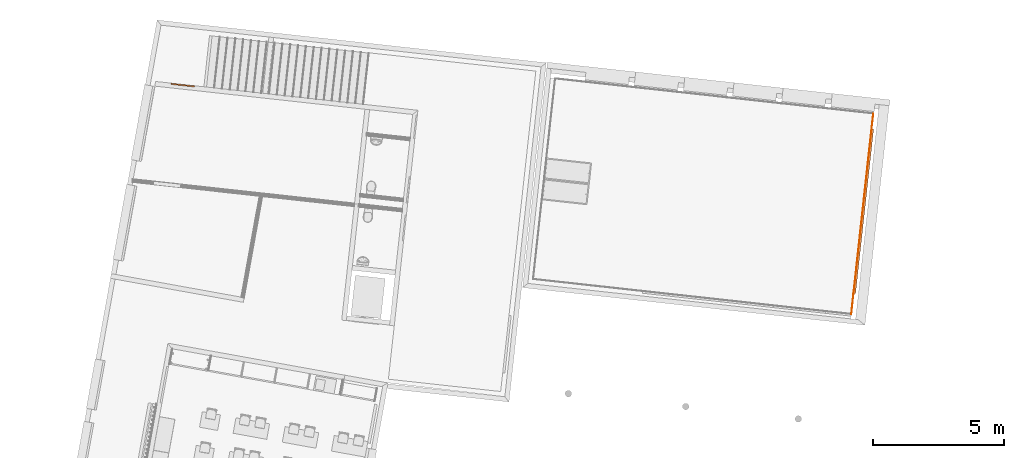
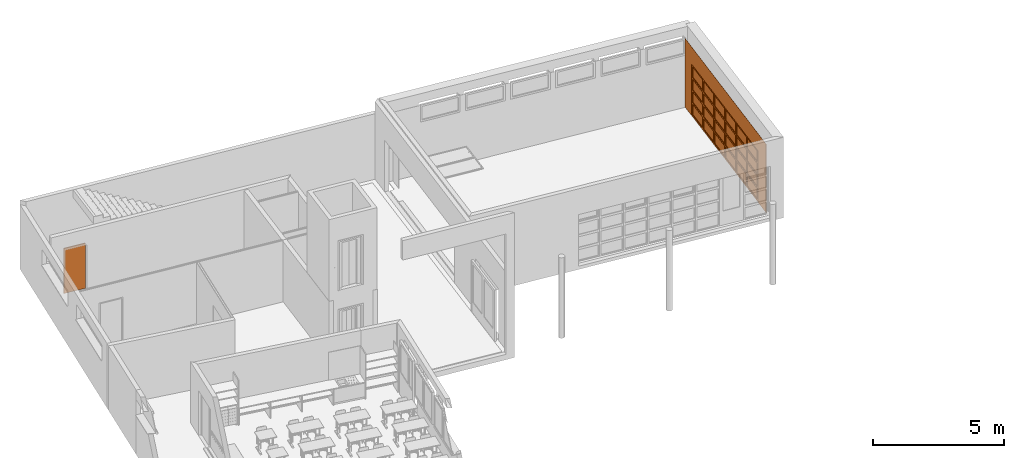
# One storey, part 72 of 79: 3 proxies.
"""IFC2X3 building model written with IfcOpenShell, lengths in metres."""

from ifc_helpers import new_model, entity, si_unit, converted_unit, derived_unit, money_unit, direction, frame, origin_with_axes, place, context, subcontext, project, spatial, polyline, outline, extrude, boolean, open_shell, faceted_brep, surface_model, material, type_object, element, save


model = new_model("IFC2X3")

# Units and contexts
model_context = context("Model", 3, precision=1e-05, world=origin_with_axes(), true_north=direction((0.0, 1.0)))
body_context = subcontext(model_context, "Body", "Model", "MODEL_VIEW")
ifc_project = project(units=[si_unit("LENGTHUNIT", "METRE"), si_unit("AREAUNIT", "SQUARE_METRE"), si_unit("VOLUMEUNIT", "CUBIC_METRE"), converted_unit("PLANEANGLEUNIT", "DEGREE", entity("IfcPlaneAngleMeasure", 0.0174532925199), si_unit("PLANEANGLEUNIT", "RADIAN"), dimensions=[0, 0, 0, 0, 0, 0, 0]), money_unit("CHF"), converted_unit("TIMEUNIT", "Year", entity("IfcTimeMeasure", 31556926.0), si_unit("TIMEUNIT", "SECOND"), dimensions=[0, 0, 1, 0, 0, 0, 0]), si_unit("MASSUNIT", "GRAM", prefix="KILO"), si_unit("THERMODYNAMICTEMPERATUREUNIT", "DEGREE_CELSIUS"), si_unit("LUMINOUSINTENSITYUNIT", "LUMEN"), si_unit("ENERGYUNIT", "JOULE", prefix="MEGA"), derived_unit("THERMALCONDUCTANCEUNIT", [(si_unit("POWERUNIT", "WATT"), 1), (si_unit("LENGTHUNIT", "METRE"), -1), (si_unit("THERMODYNAMICTEMPERATUREUNIT", "KELVIN"), -1)]), derived_unit("SPECIFICHEATCAPACITYUNIT", [(si_unit("ENERGYUNIT", "JOULE"), 1), (si_unit("MASSUNIT", "GRAM", prefix="KILO"), -1), (si_unit("THERMODYNAMICTEMPERATUREUNIT", "KELVIN"), -1)]), derived_unit("MASSDENSITYUNIT", [(si_unit("MASSUNIT", "GRAM", prefix="KILO"), 1), (si_unit("VOLUMEUNIT", "CUBIC_METRE"), -1)])], contexts=[model_context])

# Site, building, storey
site_placement = place(None, frame((0.0, 0.0, 0.0), z_axis=(0.0, 0.0, 1.0), x_axis=(-0.177771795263, -0.984071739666, 0.0)))
site = spatial("IfcSite", under=ifc_project, at=site_placement, Name="Site", CompositionType="ELEMENT")
building_placement = place(site_placement, origin_with_axes())
building = spatial("IfcBuilding", under=site, at=building_placement, Name="Bâtiment", CompositionType="ELEMENT")
storey_placement = place(building_placement, origin_with_axes())
storey = spatial("IfcBuildingStorey", under=building, at=storey_placement, Name="RDC", CompositionType="ELEMENT", Elevation=0.0)

# Proxies
ifc_material_1 = material(Name="Matériau de construction IFC")
building_element_proxy_type_1 = type_object("IfcBuildingElementProxyType", Name="Porte 21", PredefinedType="NOTDEFINED")
proxy_1_placement = place(storey_placement, frame((100.170296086, -158.271447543, 0.0), z_axis=(0.0, 0.0, 1.0), x_axis=(-0.0692627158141, 0.997598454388, 0.0)))
element("IfcBuildingElementProxy", 1, at=proxy_1_placement, inside=storey, type_object=building_element_proxy_type_1, material=ifc_material_1, Name="29", context=body_context, shape_type="Brep", body=[
    faceted_brep([(0.85, -0.04, 0.0), (0.85, -0.05, 0.0), (0.85, -0.05, 2.05), (0.85, -0.04, 2.05), (0.862, -0.04, 0.0), (0.862, 0.0, 0.0), (0.9, 0.0, 0.0), (0.9, -0.05, 0.0), (0.9, -0.05, 2.05), (0.862, -0.04, 2.05), (0.9, 0.0, 2.05), (0.862, 0.0, 2.05)], [[[0, 1, 2, 3]], [[4, 5, 6, 7, 1, 0]], [[1, 7, 8, 2]], [[9, 3, 2, 8, 10, 11]], [[9, 4, 0, 3]], [[11, 5, 4, 9]], [[11, 10, 6, 5]], [[6, 10, 8, 7]]]),
    faceted_brep([(0.038, -0.04, 2.05), (0.038, 0.0, 2.05), (0.0, 0.0, 2.05), (0.0, -0.05, 2.05), (0.05, -0.05, 2.05), (0.05, -0.04, 2.05), (0.038, -0.04, 0.0), (0.038, 0.0, 0.0), (0.0, 0.0, 0.0), (0.0, -0.05, 0.0), (0.05, -0.05, 0.0), (0.05, -0.04, 0.0)], [[[0, 1, 2, 3, 4, 5]], [[0, 6, 7, 1]], [[7, 8, 2, 1]], [[2, 8, 9, 3]], [[3, 9, 10, 4]], [[5, 4, 10, 11]], [[5, 11, 6, 0]], [[6, 11, 10, 9, 8, 7]]]),
    faceted_brep([(0.862, 0.0, 2.062), (0.038, 0.0, 2.062), (0.038, 0.0, 2.05), (0.0, 0.0, 2.05), (0.0, 0.0, 2.1), (0.9, 0.0, 2.1), (0.9, 0.0, 2.05), (0.862, 0.0, 2.05), (0.862, -0.04, 2.062), (0.038, -0.04, 2.062), (0.038, -0.04, 2.05), (0.05, -0.04, 2.05), (0.05, -0.05, 2.05), (0.0, -0.05, 2.05), (0.0, -0.05, 2.1), (0.9, -0.05, 2.1), (0.9, -0.05, 2.05), (0.862, -0.04, 2.05), (0.85, -0.05, 2.05), (0.85, -0.04, 2.05)], [[[0, 1, 2, 3, 4, 5, 6, 7]], [[0, 8, 9, 1]], [[1, 9, 10, 2]], [[10, 11, 12, 13, 3, 2]], [[4, 3, 13, 14]], [[5, 4, 14, 15]], [[6, 5, 15, 16]], [[17, 7, 6, 16, 18, 19]], [[7, 17, 8, 0]], [[10, 9, 8, 17, 19, 11]], [[19, 18, 12, 11]], [[12, 18, 16, 15, 14, 13]]]),
    faceted_brep([(0.038, -0.01, 0.0), (0.862, -0.00999999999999, 0.0), (0.862, -0.04, 0.0), (0.038, -0.04, 0.0), (0.038, -0.01, 2.062), (0.862, -0.00999999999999, 2.062), (0.862, -0.04, 2.062), (0.038, -0.04, 2.062)], [[[0, 1, 2, 3]], [[0, 4, 5, 1]], [[1, 5, 6, 2]], [[3, 2, 6, 7]], [[4, 0, 3, 7]], [[5, 4, 7, 6]]]),
])
building_element_proxy_type_2 = type_object("IfcBuildingElementProxyType", Name="Fenêtre horizontale à châssis multiples 21", PredefinedType="NOTDEFINED")
proxy_2_placement = place(storey_placement, frame((103.404842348, -130.93788261, 0.0), z_axis=(0.0, 0.0, 1.0), x_axis=(-0.997598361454, -0.0692640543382, 0.0)))
element("IfcBuildingElementProxy", 2, at=proxy_2_placement, inside=storey, type_object=building_element_proxy_type_2, material=ifc_material_1, Name="Baie salle-pluri-Est", context=body_context, shape_type="SurfaceModel", body=[
    faceted_brep([(6.225, 0.285, 2.325), (6.3, 0.285, 2.325), (6.3, 0.36, 2.325), (6.225, 0.36, 2.325), (6.225, 0.285, 0.075), (6.3, 0.285, 0.075), (6.3, 0.36, 0.075), (6.225, 0.36, 0.075)], [[[0, 1, 2, 3]], [[0, 4, 5, 1]], [[1, 5, 6, 2]], [[3, 2, 6, 7]], [[4, 0, 3, 7]], [[5, 4, 7, 6]]]),
    faceted_brep([(0.075, 0.285, 0.075), (0.0, 0.285, 0.075), (0.0, 0.36, 0.075), (0.075, 0.36, 0.075), (0.075, 0.285, 2.325), (0.0, 0.285, 2.325), (0.0, 0.36, 2.325), (0.075, 0.36, 2.325)], [[[0, 1, 2, 3]], [[0, 4, 5, 1]], [[1, 5, 6, 2]], [[3, 2, 6, 7]], [[4, 0, 3, 7]], [[5, 4, 7, 6]]]),
    faceted_brep([(0.075, 0.285, 2.325), (0.0, 0.285, 2.325), (0.0, 0.36, 2.325), (0.075, 0.36, 2.325), (1.0375, 0.285, 2.325), (1.1125, 0.285, 2.325), (2.075, 0.285, 2.325), (2.15, 0.285, 2.325), (3.1125, 0.285, 2.325), (3.1875, 0.285, 2.325), (4.15, 0.285, 2.325), (4.225, 0.285, 2.325), (5.1875, 0.285, 2.325), (5.2625, 0.285, 2.325), (6.225, 0.285, 2.325), (6.3, 0.285, 2.325), (6.3, 0.285, 2.4), (0.0, 0.285, 2.4), (0.0, 0.36, 2.4), (6.3, 0.36, 2.4), (6.3, 0.36, 2.325), (6.225, 0.36, 2.325), (5.2625, 0.36, 2.325), (5.1875, 0.36, 2.325), (4.225, 0.36, 2.325), (4.15, 0.36, 2.325), (3.1875, 0.36, 2.325), (3.1125, 0.36, 2.325), (2.15, 0.36, 2.325), (2.075, 0.36, 2.325), (1.1125, 0.36, 2.325), (1.0375, 0.36, 2.325)], [[[0, 1, 2, 3]], [[0, 4, 5, 6, 7, 8, 9, 10, 11, 12, 13, 14, 15, 16, 17, 1]], [[1, 17, 18, 2]], [[3, 2, 18, 19, 20, 21, 22, 23, 24, 25, 26, 27, 28, 29, 30, 31]], [[4, 0, 3, 31]], [[5, 4, 31, 30]], [[6, 5, 30, 29]], [[7, 6, 29, 28]], [[8, 7, 28, 27]], [[9, 8, 27, 26]], [[10, 9, 26, 25]], [[11, 10, 25, 24]], [[12, 11, 24, 23]], [[13, 12, 23, 22]], [[14, 13, 22, 21]], [[15, 14, 21, 20]], [[16, 15, 20, 19]], [[17, 16, 19, 18]]]),
    faceted_brep([(1.0375, 0.285, 0.075), (1.1125, 0.285, 0.075), (1.1125, 0.36, 0.075), (1.0375, 0.36, 0.075), (0.075, 0.285, 0.075), (0.0, 0.285, 0.075), (0.0, 0.285, 0.0), (6.3, 0.285, 0.0), (6.3, 0.285, 0.075), (6.225, 0.285, 0.075), (5.2625, 0.285, 0.075), (5.1875, 0.285, 0.075), (4.225, 0.285, 0.075), (4.15, 0.285, 0.075), (3.1875, 0.285, 0.075), (3.1125, 0.285, 0.075), (2.15, 0.285, 0.075), (2.075, 0.285, 0.075), (2.075, 0.36, 0.075), (2.15, 0.36, 0.075), (3.1125, 0.36, 0.075), (3.1875, 0.36, 0.075), (4.15, 0.36, 0.075), (4.225, 0.36, 0.075), (5.1875, 0.36, 0.075), (5.2625, 0.36, 0.075), (6.225, 0.36, 0.075), (6.3, 0.36, 0.075), (6.3, 0.36, 0.0), (0.0, 0.36, 0.0), (0.0, 0.36, 0.075), (0.075, 0.36, 0.075)], [[[0, 1, 2, 3]], [[0, 4, 5, 6, 7, 8, 9, 10, 11, 12, 13, 14, 15, 16, 17, 1]], [[1, 17, 18, 2]], [[3, 2, 18, 19, 20, 21, 22, 23, 24, 25, 26, 27, 28, 29, 30, 31]], [[4, 0, 3, 31]], [[5, 4, 31, 30]], [[6, 5, 30, 29]], [[7, 6, 29, 28]], [[8, 7, 28, 27]], [[9, 8, 27, 26]], [[10, 9, 26, 25]], [[11, 10, 25, 24]], [[12, 11, 24, 23]], [[13, 12, 23, 22]], [[14, 13, 22, 21]], [[15, 14, 21, 20]], [[16, 15, 20, 19]], [[17, 16, 19, 18]]]),
    faceted_brep([(5.1875, 0.285, 0.075), (5.1875, 0.285, 2.325), (5.1875, 0.36, 2.325), (5.1875, 0.36, 0.075), (5.2625, 0.285, 0.075), (5.2625, 0.285, 2.325), (5.2625, 0.36, 2.325), (5.2625, 0.36, 0.075)], [[[0, 1, 2, 3]], [[0, 4, 5, 1]], [[1, 5, 6, 2]], [[3, 2, 6, 7]], [[4, 0, 3, 7]], [[5, 4, 7, 6]]]),
    faceted_brep([(4.15, 0.285, 0.075), (4.15, 0.285, 2.325), (4.15, 0.36, 2.325), (4.15, 0.36, 0.075), (4.225, 0.285, 0.075), (4.225, 0.285, 2.325), (4.225, 0.36, 2.325), (4.225, 0.36, 0.075)], [[[0, 1, 2, 3]], [[0, 4, 5, 1]], [[1, 5, 6, 2]], [[3, 2, 6, 7]], [[4, 0, 3, 7]], [[5, 4, 7, 6]]]),
    faceted_brep([(3.1125, 0.285, 0.075), (3.1125, 0.285, 2.325), (3.1125, 0.36, 2.325), (3.1125, 0.36, 0.075), (3.1875, 0.285, 0.075), (3.1875, 0.285, 2.325), (3.1875, 0.36, 2.325), (3.1875, 0.36, 0.075)], [[[0, 1, 2, 3]], [[0, 4, 5, 1]], [[1, 5, 6, 2]], [[3, 2, 6, 7]], [[4, 0, 3, 7]], [[5, 4, 7, 6]]]),
    faceted_brep([(2.075, 0.285, 0.075), (2.075, 0.285, 2.325), (2.075, 0.36, 2.325), (2.075, 0.36, 0.075), (2.15, 0.285, 0.075), (2.15, 0.285, 2.325), (2.15, 0.36, 2.325), (2.15, 0.36, 0.075)], [[[0, 1, 2, 3]], [[0, 4, 5, 1]], [[1, 5, 6, 2]], [[3, 2, 6, 7]], [[4, 0, 3, 7]], [[5, 4, 7, 6]]]),
    faceted_brep([(1.0375, 0.285, 0.075), (1.0375, 0.285, 2.325), (1.0375, 0.36, 2.325), (1.0375, 0.36, 0.075), (1.1125, 0.285, 0.075), (1.1125, 0.285, 2.325), (1.1125, 0.36, 2.325), (1.1125, 0.36, 0.075)], [[[0, 1, 2, 3]], [[0, 4, 5, 1]], [[1, 5, 6, 2]], [[3, 2, 6, 7]], [[4, 0, 3, 7]], [[5, 4, 7, 6]]]),
    surface_model("IfcShellBasedSurfaceModel", [(5.2625, 0.3125, 0.075), (6.225, 0.3125, 0.075), (6.225, 0.3125, 0.58125), (5.2625, 0.3125, 0.58125)], [open_shell([[[0, 1, 2, 3]]])]),
    surface_model("IfcShellBasedSurfaceModel", [(5.2625, 0.3325, 0.075), (5.2625, 0.3325, 0.58125), (6.225, 0.3325, 0.58125), (6.225, 0.3325, 0.075)], [open_shell([[[0, 1, 2, 3]]])]),
    surface_model("IfcShellBasedSurfaceModel", [(5.2625, 0.3125, 0.65625), (6.225, 0.3125, 0.65625), (6.225, 0.3125, 1.1625), (5.2625, 0.3125, 1.1625)], [open_shell([[[0, 1, 2, 3]]])]),
    surface_model("IfcShellBasedSurfaceModel", [(5.2625, 0.3325, 0.65625), (5.2625, 0.3325, 1.1625), (6.225, 0.3325, 1.1625), (6.225, 0.3325, 0.65625)], [open_shell([[[0, 1, 2, 3]]])]),
    surface_model("IfcShellBasedSurfaceModel", [(5.2625, 0.3125, 1.2375), (6.225, 0.3125, 1.2375), (6.225, 0.3125, 1.74375), (5.2625, 0.3125, 1.74375)], [open_shell([[[0, 1, 2, 3]]])]),
    surface_model("IfcShellBasedSurfaceModel", [(5.2625, 0.3325, 1.2375), (5.2625, 0.3325, 1.74375), (6.225, 0.3325, 1.74375), (6.225, 0.3325, 1.2375)], [open_shell([[[0, 1, 2, 3]]])]),
    surface_model("IfcShellBasedSurfaceModel", [(5.2625, 0.3125, 1.81875), (6.225, 0.3125, 1.81875), (6.225, 0.3125, 2.325), (5.2625, 0.3125, 2.325)], [open_shell([[[0, 1, 2, 3]]])]),
    surface_model("IfcShellBasedSurfaceModel", [(5.2625, 0.3325, 1.81875), (5.2625, 0.3325, 2.325), (6.225, 0.3325, 2.325), (6.225, 0.3325, 1.81875)], [open_shell([[[0, 1, 2, 3]]])]),
    faceted_brep([(6.225, 0.285, 0.58125), (5.2625, 0.285, 0.58125), (5.2625, 0.36, 0.58125), (6.225, 0.36, 0.58125), (6.225, 0.285, 0.65625), (5.2625, 0.285, 0.65625), (5.2625, 0.36, 0.65625), (6.225, 0.36, 0.65625)], [[[0, 1, 2, 3]], [[0, 4, 5, 1]], [[1, 5, 6, 2]], [[3, 2, 6, 7]], [[4, 0, 3, 7]], [[5, 4, 7, 6]]]),
    faceted_brep([(6.225, 0.285, 1.1625), (5.2625, 0.285, 1.1625), (5.2625, 0.36, 1.1625), (6.225, 0.36, 1.1625), (6.225, 0.285, 1.2375), (5.2625, 0.285, 1.2375), (5.2625, 0.36, 1.2375), (6.225, 0.36, 1.2375)], [[[0, 1, 2, 3]], [[0, 4, 5, 1]], [[1, 5, 6, 2]], [[3, 2, 6, 7]], [[4, 0, 3, 7]], [[5, 4, 7, 6]]]),
    faceted_brep([(6.225, 0.285, 1.74375), (5.2625, 0.285, 1.74375), (5.2625, 0.36, 1.74375), (6.225, 0.36, 1.74375), (6.225, 0.285, 1.81875), (5.2625, 0.285, 1.81875), (5.2625, 0.36, 1.81875), (6.225, 0.36, 1.81875)], [[[0, 1, 2, 3]], [[0, 4, 5, 1]], [[1, 5, 6, 2]], [[3, 2, 6, 7]], [[4, 0, 3, 7]], [[5, 4, 7, 6]]]),
    surface_model("IfcShellBasedSurfaceModel", [(4.225, 0.3125, 0.075), (5.1875, 0.3125, 0.075), (5.1875, 0.3125, 0.58125), (4.225, 0.3125, 0.58125)], [open_shell([[[0, 1, 2, 3]]])]),
    surface_model("IfcShellBasedSurfaceModel", [(4.225, 0.3325, 0.075), (4.225, 0.3325, 0.58125), (5.1875, 0.3325, 0.58125), (5.1875, 0.3325, 0.075)], [open_shell([[[0, 1, 2, 3]]])]),
    surface_model("IfcShellBasedSurfaceModel", [(4.225, 0.3125, 0.65625), (5.1875, 0.3125, 0.65625), (5.1875, 0.3125, 1.1625), (4.225, 0.3125, 1.1625)], [open_shell([[[0, 1, 2, 3]]])]),
    surface_model("IfcShellBasedSurfaceModel", [(4.225, 0.3325, 0.65625), (4.225, 0.3325, 1.1625), (5.1875, 0.3325, 1.1625), (5.1875, 0.3325, 0.65625)], [open_shell([[[0, 1, 2, 3]]])]),
    surface_model("IfcShellBasedSurfaceModel", [(4.225, 0.3125, 1.2375), (5.1875, 0.3125, 1.2375), (5.1875, 0.3125, 1.74375), (4.225, 0.3125, 1.74375)], [open_shell([[[0, 1, 2, 3]]])]),
    surface_model("IfcShellBasedSurfaceModel", [(4.225, 0.3325, 1.2375), (4.225, 0.3325, 1.74375), (5.1875, 0.3325, 1.74375), (5.1875, 0.3325, 1.2375)], [open_shell([[[0, 1, 2, 3]]])]),
    surface_model("IfcShellBasedSurfaceModel", [(4.225, 0.3125, 1.81875), (5.1875, 0.3125, 1.81875), (5.1875, 0.3125, 2.325), (4.225, 0.3125, 2.325)], [open_shell([[[0, 1, 2, 3]]])]),
    surface_model("IfcShellBasedSurfaceModel", [(4.225, 0.3325, 1.81875), (4.225, 0.3325, 2.325), (5.1875, 0.3325, 2.325), (5.1875, 0.3325, 1.81875)], [open_shell([[[0, 1, 2, 3]]])]),
    faceted_brep([(5.1875, 0.285, 0.58125), (4.225, 0.285, 0.58125), (4.225, 0.36, 0.58125), (5.1875, 0.36, 0.58125), (5.1875, 0.285, 0.65625), (4.225, 0.285, 0.65625), (4.225, 0.36, 0.65625), (5.1875, 0.36, 0.65625)], [[[0, 1, 2, 3]], [[0, 4, 5, 1]], [[1, 5, 6, 2]], [[3, 2, 6, 7]], [[4, 0, 3, 7]], [[5, 4, 7, 6]]]),
    faceted_brep([(5.1875, 0.285, 1.1625), (4.225, 0.285, 1.1625), (4.225, 0.36, 1.1625), (5.1875, 0.36, 1.1625), (5.1875, 0.285, 1.2375), (4.225, 0.285, 1.2375), (4.225, 0.36, 1.2375), (5.1875, 0.36, 1.2375)], [[[0, 1, 2, 3]], [[0, 4, 5, 1]], [[1, 5, 6, 2]], [[3, 2, 6, 7]], [[4, 0, 3, 7]], [[5, 4, 7, 6]]]),
    faceted_brep([(5.1875, 0.285, 1.74375), (4.225, 0.285, 1.74375), (4.225, 0.36, 1.74375), (5.1875, 0.36, 1.74375), (5.1875, 0.285, 1.81875), (4.225, 0.285, 1.81875), (4.225, 0.36, 1.81875), (5.1875, 0.36, 1.81875)], [[[0, 1, 2, 3]], [[0, 4, 5, 1]], [[1, 5, 6, 2]], [[3, 2, 6, 7]], [[4, 0, 3, 7]], [[5, 4, 7, 6]]]),
    surface_model("IfcShellBasedSurfaceModel", [(3.1875, 0.3125, 0.075), (4.15, 0.3125, 0.075), (4.15, 0.3125, 0.58125), (3.1875, 0.3125, 0.58125)], [open_shell([[[0, 1, 2, 3]]])]),
    surface_model("IfcShellBasedSurfaceModel", [(3.1875, 0.3325, 0.075), (3.1875, 0.3325, 0.58125), (4.15, 0.3325, 0.58125), (4.15, 0.3325, 0.075)], [open_shell([[[0, 1, 2, 3]]])]),
    surface_model("IfcShellBasedSurfaceModel", [(3.1875, 0.3125, 0.65625), (4.15, 0.3125, 0.65625), (4.15, 0.3125, 1.1625), (3.1875, 0.3125, 1.1625)], [open_shell([[[0, 1, 2, 3]]])]),
    surface_model("IfcShellBasedSurfaceModel", [(3.1875, 0.3325, 0.65625), (3.1875, 0.3325, 1.1625), (4.15, 0.3325, 1.1625), (4.15, 0.3325, 0.65625)], [open_shell([[[0, 1, 2, 3]]])]),
    surface_model("IfcShellBasedSurfaceModel", [(3.1875, 0.3125, 1.2375), (4.15, 0.3125, 1.2375), (4.15, 0.3125, 1.74375), (3.1875, 0.3125, 1.74375)], [open_shell([[[0, 1, 2, 3]]])]),
    surface_model("IfcShellBasedSurfaceModel", [(3.1875, 0.3325, 1.2375), (3.1875, 0.3325, 1.74375), (4.15, 0.3325, 1.74375), (4.15, 0.3325, 1.2375)], [open_shell([[[0, 1, 2, 3]]])]),
    surface_model("IfcShellBasedSurfaceModel", [(3.1875, 0.3125, 1.81875), (4.15, 0.3125, 1.81875), (4.15, 0.3125, 2.325), (3.1875, 0.3125, 2.325)], [open_shell([[[0, 1, 2, 3]]])]),
    surface_model("IfcShellBasedSurfaceModel", [(3.1875, 0.3325, 1.81875), (3.1875, 0.3325, 2.325), (4.15, 0.3325, 2.325), (4.15, 0.3325, 1.81875)], [open_shell([[[0, 1, 2, 3]]])]),
    faceted_brep([(4.15, 0.285, 0.58125), (3.1875, 0.285, 0.58125), (3.1875, 0.36, 0.58125), (4.15, 0.36, 0.58125), (4.15, 0.285, 0.65625), (3.1875, 0.285, 0.65625), (3.1875, 0.36, 0.65625), (4.15, 0.36, 0.65625)], [[[0, 1, 2, 3]], [[0, 4, 5, 1]], [[1, 5, 6, 2]], [[3, 2, 6, 7]], [[4, 0, 3, 7]], [[5, 4, 7, 6]]]),
    faceted_brep([(4.15, 0.285, 1.1625), (3.1875, 0.285, 1.1625), (3.1875, 0.36, 1.1625), (4.15, 0.36, 1.1625), (4.15, 0.285, 1.2375), (3.1875, 0.285, 1.2375), (3.1875, 0.36, 1.2375), (4.15, 0.36, 1.2375)], [[[0, 1, 2, 3]], [[0, 4, 5, 1]], [[1, 5, 6, 2]], [[3, 2, 6, 7]], [[4, 0, 3, 7]], [[5, 4, 7, 6]]]),
    faceted_brep([(4.15, 0.285, 1.74375), (3.1875, 0.285, 1.74375), (3.1875, 0.36, 1.74375), (4.15, 0.36, 1.74375), (4.15, 0.285, 1.81875), (3.1875, 0.285, 1.81875), (3.1875, 0.36, 1.81875), (4.15, 0.36, 1.81875)], [[[0, 1, 2, 3]], [[0, 4, 5, 1]], [[1, 5, 6, 2]], [[3, 2, 6, 7]], [[4, 0, 3, 7]], [[5, 4, 7, 6]]]),
    surface_model("IfcShellBasedSurfaceModel", [(2.15, 0.3125, 0.075), (3.1125, 0.3125, 0.075), (3.1125, 0.3125, 0.58125), (2.15, 0.3125, 0.58125)], [open_shell([[[0, 1, 2, 3]]])]),
    surface_model("IfcShellBasedSurfaceModel", [(2.15, 0.3325, 0.075), (2.15, 0.3325, 0.58125), (3.1125, 0.3325, 0.58125), (3.1125, 0.3325, 0.075)], [open_shell([[[0, 1, 2, 3]]])]),
    surface_model("IfcShellBasedSurfaceModel", [(2.15, 0.3125, 0.65625), (3.1125, 0.3125, 0.65625), (3.1125, 0.3125, 1.1625), (2.15, 0.3125, 1.1625)], [open_shell([[[0, 1, 2, 3]]])]),
    surface_model("IfcShellBasedSurfaceModel", [(2.15, 0.3325, 0.65625), (2.15, 0.3325, 1.1625), (3.1125, 0.3325, 1.1625), (3.1125, 0.3325, 0.65625)], [open_shell([[[0, 1, 2, 3]]])]),
    surface_model("IfcShellBasedSurfaceModel", [(2.15, 0.3125, 1.2375), (3.1125, 0.3125, 1.2375), (3.1125, 0.3125, 1.74375), (2.15, 0.3125, 1.74375)], [open_shell([[[0, 1, 2, 3]]])]),
    surface_model("IfcShellBasedSurfaceModel", [(2.15, 0.3325, 1.2375), (2.15, 0.3325, 1.74375), (3.1125, 0.3325, 1.74375), (3.1125, 0.3325, 1.2375)], [open_shell([[[0, 1, 2, 3]]])]),
    surface_model("IfcShellBasedSurfaceModel", [(2.15, 0.3125, 1.81875), (3.1125, 0.3125, 1.81875), (3.1125, 0.3125, 2.325), (2.15, 0.3125, 2.325)], [open_shell([[[0, 1, 2, 3]]])]),
    surface_model("IfcShellBasedSurfaceModel", [(2.15, 0.3325, 1.81875), (2.15, 0.3325, 2.325), (3.1125, 0.3325, 2.325), (3.1125, 0.3325, 1.81875)], [open_shell([[[0, 1, 2, 3]]])]),
    faceted_brep([(3.1125, 0.285, 0.58125), (2.15, 0.285, 0.58125), (2.15, 0.36, 0.58125), (3.1125, 0.36, 0.58125), (3.1125, 0.285, 0.65625), (2.15, 0.285, 0.65625), (2.15, 0.36, 0.65625), (3.1125, 0.36, 0.65625)], [[[0, 1, 2, 3]], [[0, 4, 5, 1]], [[1, 5, 6, 2]], [[3, 2, 6, 7]], [[4, 0, 3, 7]], [[5, 4, 7, 6]]]),
    faceted_brep([(3.1125, 0.285, 1.1625), (2.15, 0.285, 1.1625), (2.15, 0.36, 1.1625), (3.1125, 0.36, 1.1625), (3.1125, 0.285, 1.2375), (2.15, 0.285, 1.2375), (2.15, 0.36, 1.2375), (3.1125, 0.36, 1.2375)], [[[0, 1, 2, 3]], [[0, 4, 5, 1]], [[1, 5, 6, 2]], [[3, 2, 6, 7]], [[4, 0, 3, 7]], [[5, 4, 7, 6]]]),
    faceted_brep([(3.1125, 0.285, 1.74375), (2.15, 0.285, 1.74375), (2.15, 0.36, 1.74375), (3.1125, 0.36, 1.74375), (3.1125, 0.285, 1.81875), (2.15, 0.285, 1.81875), (2.15, 0.36, 1.81875), (3.1125, 0.36, 1.81875)], [[[0, 1, 2, 3]], [[0, 4, 5, 1]], [[1, 5, 6, 2]], [[3, 2, 6, 7]], [[4, 0, 3, 7]], [[5, 4, 7, 6]]]),
    surface_model("IfcShellBasedSurfaceModel", [(1.1125, 0.3125, 0.075), (2.075, 0.3125, 0.075), (2.075, 0.3125, 0.58125), (1.1125, 0.3125, 0.58125)], [open_shell([[[0, 1, 2, 3]]])]),
    surface_model("IfcShellBasedSurfaceModel", [(1.1125, 0.3325, 0.075), (1.1125, 0.3325, 0.58125), (2.075, 0.3325, 0.58125), (2.075, 0.3325, 0.075)], [open_shell([[[0, 1, 2, 3]]])]),
    surface_model("IfcShellBasedSurfaceModel", [(1.1125, 0.3125, 0.65625), (2.075, 0.3125, 0.65625), (2.075, 0.3125, 1.1625), (1.1125, 0.3125, 1.1625)], [open_shell([[[0, 1, 2, 3]]])]),
    surface_model("IfcShellBasedSurfaceModel", [(1.1125, 0.3325, 0.65625), (1.1125, 0.3325, 1.1625), (2.075, 0.3325, 1.1625), (2.075, 0.3325, 0.65625)], [open_shell([[[0, 1, 2, 3]]])]),
    surface_model("IfcShellBasedSurfaceModel", [(1.1125, 0.3125, 1.2375), (2.075, 0.3125, 1.2375), (2.075, 0.3125, 1.74375), (1.1125, 0.3125, 1.74375)], [open_shell([[[0, 1, 2, 3]]])]),
    surface_model("IfcShellBasedSurfaceModel", [(1.1125, 0.3325, 1.2375), (1.1125, 0.3325, 1.74375), (2.075, 0.3325, 1.74375), (2.075, 0.3325, 1.2375)], [open_shell([[[0, 1, 2, 3]]])]),
    surface_model("IfcShellBasedSurfaceModel", [(1.1125, 0.3125, 1.81875), (2.075, 0.3125, 1.81875), (2.075, 0.3125, 2.325), (1.1125, 0.3125, 2.325)], [open_shell([[[0, 1, 2, 3]]])]),
    surface_model("IfcShellBasedSurfaceModel", [(1.1125, 0.3325, 1.81875), (1.1125, 0.3325, 2.325), (2.075, 0.3325, 2.325), (2.075, 0.3325, 1.81875)], [open_shell([[[0, 1, 2, 3]]])]),
    faceted_brep([(2.075, 0.285, 0.58125), (1.1125, 0.285, 0.58125), (1.1125, 0.36, 0.58125), (2.075, 0.36, 0.58125), (2.075, 0.285, 0.65625), (1.1125, 0.285, 0.65625), (1.1125, 0.36, 0.65625), (2.075, 0.36, 0.65625)], [[[0, 1, 2, 3]], [[0, 4, 5, 1]], [[1, 5, 6, 2]], [[3, 2, 6, 7]], [[4, 0, 3, 7]], [[5, 4, 7, 6]]]),
    faceted_brep([(2.075, 0.285, 1.1625), (1.1125, 0.285, 1.1625), (1.1125, 0.36, 1.1625), (2.075, 0.36, 1.1625), (2.075, 0.285, 1.2375), (1.1125, 0.285, 1.2375), (1.1125, 0.36, 1.2375), (2.075, 0.36, 1.2375)], [[[0, 1, 2, 3]], [[0, 4, 5, 1]], [[1, 5, 6, 2]], [[3, 2, 6, 7]], [[4, 0, 3, 7]], [[5, 4, 7, 6]]]),
    faceted_brep([(2.075, 0.285, 1.74375), (1.1125, 0.285, 1.74375), (1.1125, 0.36, 1.74375), (2.075, 0.36, 1.74375), (2.075, 0.285, 1.81875), (1.1125, 0.285, 1.81875), (1.1125, 0.36, 1.81875), (2.075, 0.36, 1.81875)], [[[0, 1, 2, 3]], [[0, 4, 5, 1]], [[1, 5, 6, 2]], [[3, 2, 6, 7]], [[4, 0, 3, 7]], [[5, 4, 7, 6]]]),
    surface_model("IfcShellBasedSurfaceModel", [(0.075, 0.3125, 0.075), (1.0375, 0.3125, 0.075), (1.0375, 0.3125, 0.58125), (0.075, 0.3125, 0.58125)], [open_shell([[[0, 1, 2, 3]]])]),
    surface_model("IfcShellBasedSurfaceModel", [(0.075, 0.3325, 0.075), (0.075, 0.3325, 0.58125), (1.0375, 0.3325, 0.58125), (1.0375, 0.3325, 0.075)], [open_shell([[[0, 1, 2, 3]]])]),
    surface_model("IfcShellBasedSurfaceModel", [(0.075, 0.3125, 0.65625), (1.0375, 0.3125, 0.65625), (1.0375, 0.3125, 1.1625), (0.075, 0.3125, 1.1625)], [open_shell([[[0, 1, 2, 3]]])]),
    surface_model("IfcShellBasedSurfaceModel", [(0.075, 0.3325, 0.65625), (0.075, 0.3325, 1.1625), (1.0375, 0.3325, 1.1625), (1.0375, 0.3325, 0.65625)], [open_shell([[[0, 1, 2, 3]]])]),
    surface_model("IfcShellBasedSurfaceModel", [(0.075, 0.3125, 1.2375), (1.0375, 0.3125, 1.2375), (1.0375, 0.3125, 1.74375), (0.075, 0.3125, 1.74375)], [open_shell([[[0, 1, 2, 3]]])]),
    surface_model("IfcShellBasedSurfaceModel", [(0.075, 0.3325, 1.2375), (0.075, 0.3325, 1.74375), (1.0375, 0.3325, 1.74375), (1.0375, 0.3325, 1.2375)], [open_shell([[[0, 1, 2, 3]]])]),
    surface_model("IfcShellBasedSurfaceModel", [(0.075, 0.3125, 1.81875), (1.0375, 0.3125, 1.81875), (1.0375, 0.3125, 2.325), (0.075, 0.3125, 2.325)], [open_shell([[[0, 1, 2, 3]]])]),
    surface_model("IfcShellBasedSurfaceModel", [(0.075, 0.3325, 1.81875), (0.075, 0.3325, 2.325), (1.0375, 0.3325, 2.325), (1.0375, 0.3325, 1.81875)], [open_shell([[[0, 1, 2, 3]]])]),
    faceted_brep([(1.0375, 0.285, 0.58125), (0.075, 0.285, 0.58125), (0.075, 0.36, 0.58125), (1.0375, 0.36, 0.58125), (1.0375, 0.285, 0.65625), (0.075, 0.285, 0.65625), (0.075, 0.36, 0.65625), (1.0375, 0.36, 0.65625)], [[[0, 1, 2, 3]], [[0, 4, 5, 1]], [[1, 5, 6, 2]], [[3, 2, 6, 7]], [[4, 0, 3, 7]], [[5, 4, 7, 6]]]),
    faceted_brep([(1.0375, 0.285, 1.1625), (0.075, 0.285, 1.1625), (0.075, 0.36, 1.1625), (1.0375, 0.36, 1.1625), (1.0375, 0.285, 1.2375), (0.075, 0.285, 1.2375), (0.075, 0.36, 1.2375), (1.0375, 0.36, 1.2375)], [[[0, 1, 2, 3]], [[0, 4, 5, 1]], [[1, 5, 6, 2]], [[3, 2, 6, 7]], [[4, 0, 3, 7]], [[5, 4, 7, 6]]]),
    faceted_brep([(1.0375, 0.285, 1.74375), (0.075, 0.285, 1.74375), (0.075, 0.36, 1.74375), (1.0375, 0.36, 1.74375), (1.0375, 0.285, 1.81875), (0.075, 0.285, 1.81875), (0.075, 0.36, 1.81875), (1.0375, 0.36, 1.81875)], [[[0, 1, 2, 3]], [[0, 4, 5, 1]], [[1, 5, 6, 2]], [[3, 2, 6, 7]], [[4, 0, 3, 7]], [[5, 4, 7, 6]]]),
])
ifc_material_2 = material(Name="_BA banché RAL9007")
building_element_proxy_type_3 = type_object("IfcBuildingElementProxyType", Name="_BA banché RAL9007 5", PredefinedType="NOTDEFINED")
proxy_3_placement = place(storey_placement, frame((104.212310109, -131.24870061, 0.0), z_axis=(0.0, 0.0, 1.0), x_axis=(-0.997598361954, -0.0692640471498, 0.0)))
element("IfcBuildingElementProxy", 3, at=proxy_3_placement, inside=storey, type_object=building_element_proxy_type_3, material=ifc_material_2, Name="Peinture murale", context=body_context, shape_type="CSG", body=[
    boolean("DIFFERENCE", extrude(outline(polyline([(-0.00499999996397, -0.00500000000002), (7.67300003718, -0.00500000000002), (7.66800003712, 0.0), (0.0, 0.0), (-0.00499999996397, -0.00500000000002)])), origin_with_axes(), (0.0, 0.0, 1.0), 3.2), faceted_brep([(7.08403066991, 0.0, 2.4), (7.08403066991, 0.0, 0.0), (0.784047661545, 0.0, 0.0), (0.784047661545, 0.0, 2.4), (7.08403066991, -0.00500000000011, 2.4), (7.08403066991, -0.00500000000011, 0.0), (0.784047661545, -0.00500000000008, 0.0), (0.784047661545, -0.00500000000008, 2.4)], [[[0, 1, 2, 3]], [[1, 0, 4, 5]], [[6, 2, 1, 5]], [[3, 2, 6, 7]], [[0, 3, 7, 4]], [[7, 6, 5, 4]]])),
])

save(model, "model.ifc")
